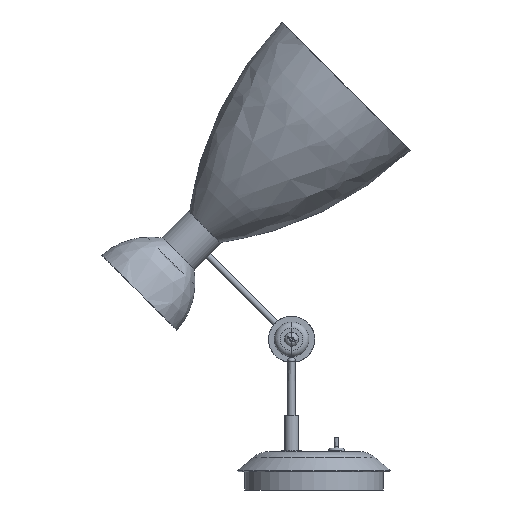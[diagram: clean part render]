
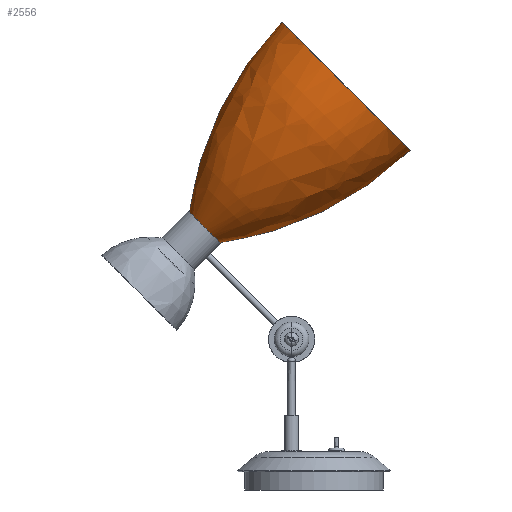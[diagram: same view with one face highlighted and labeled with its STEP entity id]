
A CAD part, left-side view. The second image highlights one B-rep face of the part: STEP entity #2556.
In plain terms, the highlighted free-form (B-spline) face has degree [2, 2] with [3, 5] control points.
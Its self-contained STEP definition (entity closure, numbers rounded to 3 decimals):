
#598=FACE_OUTER_BOUND('',#788,.T.);
#788=EDGE_LOOP('',(#1954,#1955,#1956,#1957));
#1039=CIRCLE('',#2806,14.);
#1043=CIRCLE('',#2814,221.624);
#1044=CIRCLE('',#2815,221.624);
#1045=CIRCLE('',#2816,59.);
#1195=VERTEX_POINT('',#4446);
#1196=VERTEX_POINT('',#4447);
#1199=VERTEX_POINT('',#4480);
#1200=VERTEX_POINT('',#4481);
#1457=EDGE_CURVE('',#1196,#1195,#1039,.T.);
#1465=EDGE_CURVE('',#1195,#1199,#1043,.T.);
#1466=EDGE_CURVE('',#1200,#1196,#1044,.T.);
#1467=EDGE_CURVE('',#1200,#1199,#1045,.T.);
#1954=ORIENTED_EDGE('',*,*,#1467,.F.);
#1955=ORIENTED_EDGE('',*,*,#1466,.T.);
#1956=ORIENTED_EDGE('',*,*,#1457,.T.);
#1957=ORIENTED_EDGE('',*,*,#1465,.T.);
#2485=(
BOUNDED_SURFACE()
B_SPLINE_SURFACE(2,2,((#4485,#4486,#4487,#4488,#4489),(#4490,#4491,#4492,
#4493,#4494),(#4495,#4496,#4497,#4498,#4499)),.UNSPECIFIED.,.F.,.F.,.F.)
B_SPLINE_SURFACE_WITH_KNOTS((3,3),(3,2,3),(-0.649,-0.018),
(-1.571,0.,1.571),
 .UNSPECIFIED.)
GEOMETRIC_REPRESENTATION_ITEM()
RATIONAL_B_SPLINE_SURFACE(((1.,0.707,1.,0.707,1.),
(0.951,0.672,0.951,0.672,
0.951),(1.,0.707,1.,0.707,1.)))
REPRESENTATION_ITEM('')
SURFACE()
);
#2556=ADVANCED_FACE('',(#598),#2485,.F.);
#2806=AXIS2_PLACEMENT_3D('',#4452,#3280,#3281);
#2814=AXIS2_PLACEMENT_3D('',#4483,#3300,#3301);
#2815=AXIS2_PLACEMENT_3D('',#4484,#3302,#3303);
#2816=AXIS2_PLACEMENT_3D('',#4500,#3304,#3305);
#3280=DIRECTION('center_axis',(0.,0.707,0.707));
#3281=DIRECTION('ref_axis',(0.,-0.707,0.707));
#3300=DIRECTION('center_axis',(1.,0.,0.));
#3301=DIRECTION('ref_axis',(0.,0.707,-0.707));
#3302=DIRECTION('center_axis',(1.,0.,0.));
#3303=DIRECTION('ref_axis',(0.,-0.707,0.707));
#3304=DIRECTION('center_axis',(0.,0.707,0.707));
#3305=DIRECTION('ref_axis',(1.,0.,0.));
#4446=CARTESIAN_POINT('',(-3.,-46.646,160.837));
#4447=CARTESIAN_POINT('',(-3.,-66.445,180.636));
#4452=CARTESIAN_POINT('Origin',(-3.,-56.545,170.736));
#4480=CARTESIAN_POINT('',(-3.,77.098,220.941));
#4481=CARTESIAN_POINT('',(-3.,-6.341,304.379));
#4483=CARTESIAN_POINT('Origin',(-3.,-76.821,380.397));
#4484=CARTESIAN_POINT('Origin',(-3.,153.115,150.461));
#4485=CARTESIAN_POINT('Ctrl Pts',(-3.,-66.445,180.636));
#4486=CARTESIAN_POINT('Ctrl Pts',(11.,-66.445,180.636));
#4487=CARTESIAN_POINT('Ctrl Pts',(11.,-56.545,170.736));
#4488=CARTESIAN_POINT('Ctrl Pts',(11.,-46.646,160.837));
#4489=CARTESIAN_POINT('Ctrl Pts',(-3.,-46.646,160.837));
#4490=CARTESIAN_POINT('Ctrl Pts',(-3.,-56.593,252.319));
#4491=CARTESIAN_POINT('Ctrl Pts',(54.722,-56.593,252.319));
#4492=CARTESIAN_POINT('Ctrl Pts',(54.722,-15.778,211.504));
#4493=CARTESIAN_POINT('Ctrl Pts',(54.722,25.038,170.688));
#4494=CARTESIAN_POINT('Ctrl Pts',(-3.,25.038,170.688));
#4495=CARTESIAN_POINT('Ctrl Pts',(-3.,-6.341,304.379));
#4496=CARTESIAN_POINT('Ctrl Pts',(56.,-6.341,304.379));
#4497=CARTESIAN_POINT('Ctrl Pts',(56.,35.379,262.66));
#4498=CARTESIAN_POINT('Ctrl Pts',(56.,77.098,220.941));
#4499=CARTESIAN_POINT('Ctrl Pts',(-3.,77.098,220.941));
#4500=CARTESIAN_POINT('Origin',(-3.,35.379,262.66));
